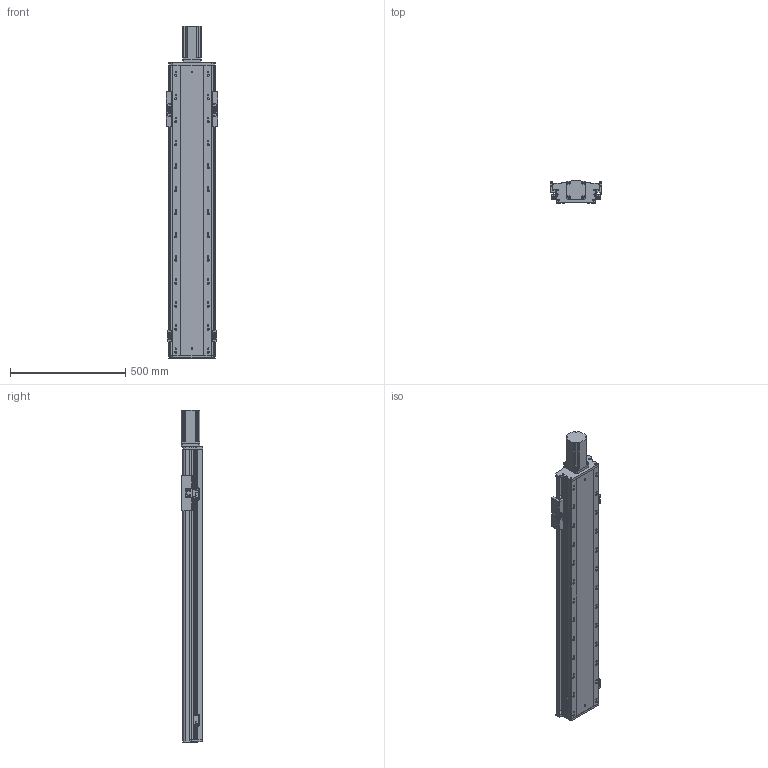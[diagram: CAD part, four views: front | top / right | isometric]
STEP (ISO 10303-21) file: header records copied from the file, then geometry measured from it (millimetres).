
FILE_DESCRIPTION (( 'STEP AP203' ), '1' );
FILE_NAME ('RY170FB-L2510-300-MK.SLDASM_950.step', '2021-02-22T08:56:54', ( '盈信电脑' ), ( '东莞市道滘镇水果街19号' ), 'SwSTEP 2.0', 'SolidWorks 2012', '' );
FILE_SCHEMA (( 'CONFIG_CONTROL_DESIGN' ));
Length unit declared in the file: millimetre
Products named in the file (16): RY170FB-L2510-300-MK.SLDASM_950; RY140-674嫖萇耀輸; RY140FB-覜茼え; RY140FB-674嫖萇覜茼え; 侂狟750W萇儂ㄗ80遺ㄘ; RY140直线电机感应器674光电安装座; 覜茼ん674; 滅袉蝶18-10; RY170FB-铝滑块(25丝杆）; 750W萇儂梓袧蛌諉啣; RY170FB-300奻裔_950; RY170FB-300倰第菁釱-MK_950; RY170FB-綴裔啣; 滅袉蝶18-28; RY170FB-ヶ裔啣
Assembly tree (20 placements, depth 3):
  RY170FB-L2510-300-MK.SLDASM_950
    RY170FB-300倰第菁釱-MK_950
    RY170FB-綴裔啣
    RY170FB-ヶ裔啣
    滅袉蝶18-28
    滅袉蝶18-10
    RY170FB-铝滑块(25丝杆）
    RY170FB-300奻裔_950
    750W萇儂梓袧蛌諉啣
    侂狟750W萇儂ㄗ80遺ㄘ
    RY140-674嫖萇耀輸  x2
      覜茼ん674
      RY140直线电机感应器674光电安装座
    RY140FB-674嫖萇覜茼え
    RY140-674嫖萇耀輸  x2
      覜茼ん674
      RY140直线电机感应器674光电安装座
    RY140FB-覜茼え
Bounding box: 225 x 93.2 x 1439.5 mm (x, y, z)
Volume: 7626594 mm3; surface area: 2183042.5 mm2
Topology: 21 solids, 21 shells, 1737 faces, 5093 edges, 3268 vertices
Faces by surface type: cylinder 844, plane 761, cone 132
Entity records: 47009 total; most frequent: CARTESIAN_POINT 10824, ORIENTED_EDGE 7374, DIRECTION 7109, EDGE_CURVE 3687, AXIS2_PLACEMENT_3D 2601, VERTEX_POINT 2422, VECTOR 1907, LINE 1907
